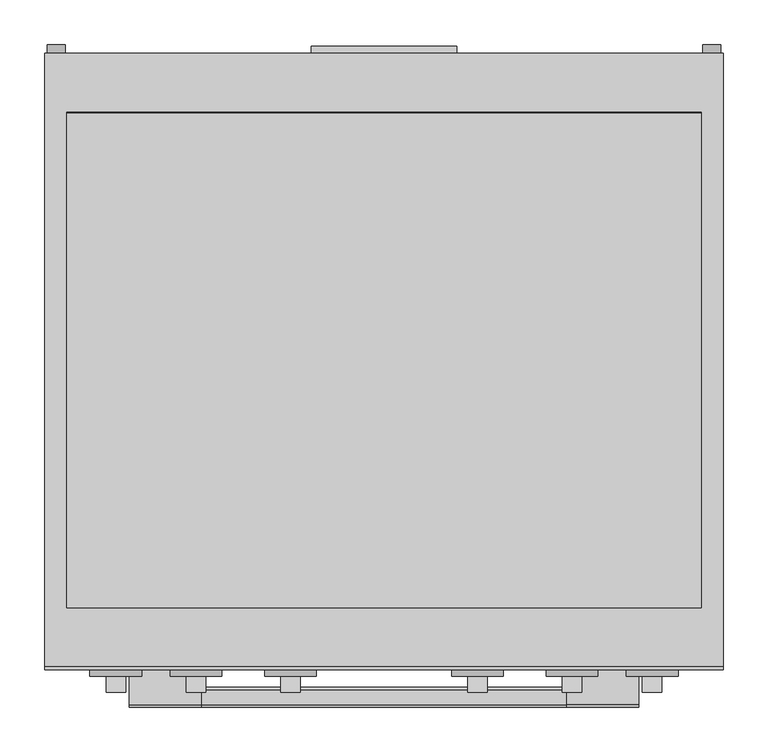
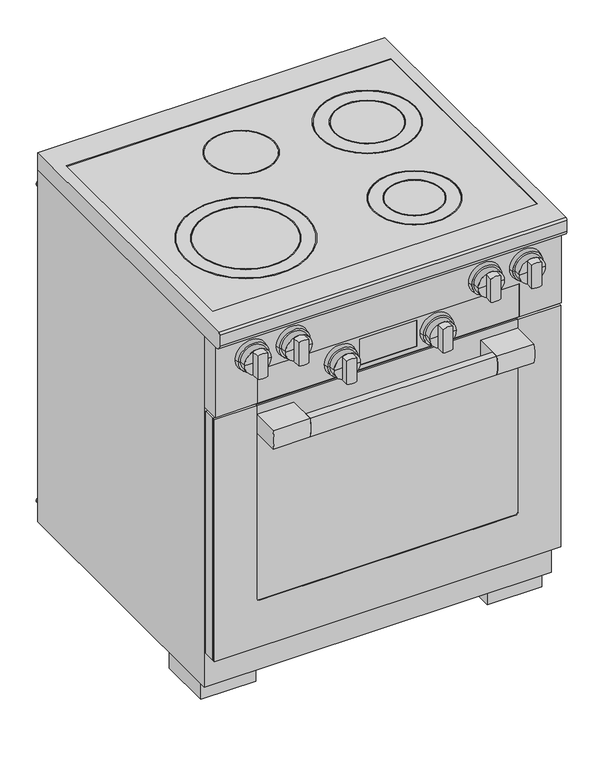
"""IFC4 building model written with IfcOpenShell, lengths in millimetres: proxy geometry, 11793360_USA_HR1421-3_EDST-CLST : 25142181_USA_11793360_HR1421-3_EDST-CLST."""

from ifc_helpers import new_model, si_unit, point, frame, frame_2d, origin, origin_with_axes, place, context, project, spatial, polyline, circle_curve, trimmed, segment, composite_curve, outline, extrude, faceted_brep, source, transform, mapped, element, save
from ifc_brep_helpers import plane_surface, cylinder_surface, revolved_surface, advanced_brep


def specialty_equipment_bfcdb2d1(model_context):
    return source(origin(), model_context, "Body", "SolidModel", [
        extrude(outline(polyline([(-351.0, -617.0), (351.0, -617.0), (351.0, -638.0), (-351.0, -638.0), (-351.0, -617.0)])), frame((0.0, 0.0, 133.0), z_axis=(0.0, 0.0, 1.0), x_axis=(1.0, 0.0, 0.0)), (0.0, 0.0, 1.0), 550.0),
        advanced_brep(
        [(287.0, -664.7, 688.0), (380.0, -664.7, 688.0), (380.0, -664.7, 127.0), (-380.0, -664.7, 127.0), (-380.0, -664.7, 688.0), (-287.0, -664.7, 688.0), (-287.0, -664.7, 687.0), (-379.0, -664.7, 687.0), (-379.0, -664.7, 128.0), (379.0, -664.7, 128.0), (379.0, -664.7, 687.0), (287.0, -664.7, 687.0), (-287.0, -670.0, 688.0), (-380.0, -670.0, 688.0), (-380.0, -670.0, 127.0), (380.0, -670.0, 127.0), (380.0, -670.0, 688.0), (287.0, -670.0, 688.0), (287.0, -670.0, 241.0), (281.0, -670.0, 235.0), (-281.0, -670.0, 235.0), (-287.0, -670.0, 241.0), (-287.0, -668.7, 241.0), (-287.0, -668.7, 687.0), (281.0, -668.7, 235.0), (-281.0, -668.7, 235.0), (287.0, -668.7, 687.0), (287.0, -668.7, 241.0), (379.0, -668.7, 687.0), (379.0, -668.7, 128.0), (-379.0, -668.7, 128.0), (-379.0, -668.7, 687.0)],
        [
            (0, 1),
            (1, 2),
            (2, 3),
            (3, 4),
            (4, 5),
            (5, 6),
            (6, 7),
            (7, 8),
            (8, 9),
            (9, 10),
            (10, 11),
            (11, 0),
            (12, 13),
            (13, 14),
            (14, 15),
            (15, 16),
            (16, 17),
            (17, 18),
            (18, 19, circle_curve(frame((281.0, -670.0, 241.0), z_axis=(0.0, 1.0, 0.0), x_axis=(-1.0, 0.0, 0.0)), 6.0)),
            (19, 20),
            (20, 21, circle_curve(frame((-281.0, -670.0, 241.0), z_axis=(0.0, 1.0, 0.0), x_axis=(-1.0, 0.0, 0.0)), 6.0)),
            (21, 12),
            (21, 22),
            (22, 23),
            (23, 6),
            (5, 12),
            (19, 24),
            (24, 25),
            (25, 20),
            (17, 0),
            (11, 26),
            (26, 27),
            (27, 18),
            (16, 1),
            (15, 2),
            (14, 3),
            (13, 4),
            (25, 22, circle_curve(frame((-281.0, -668.7, 241.0), z_axis=(0.0, 1.0, 0.0), x_axis=(-1.0, 0.0, 0.0)), 6.0)),
            (27, 24, circle_curve(frame((281.0, -668.7, 241.0), z_axis=(0.0, 1.0, 0.0), x_axis=(-1.0, 0.0, 0.0)), 6.0)),
            (28, 29),
            (29, 30),
            (30, 31),
            (31, 23),
            (26, 28),
            (28, 10),
            (9, 29),
            (8, 30),
            (7, 31),
        ],
        [
            plane_surface(frame((-287.0, -664.7, 241.0), z_axis=(0.0, 1.0, 0.0), x_axis=(0.0, 0.0, -1.0))),
            plane_surface(frame((-287.0, -670.0, 241.0), z_axis=(0.0, -1.0, 0.0), x_axis=(0.0, 0.0, 1.0))),
            plane_surface(frame((-287.0, -664.7, 688.0), z_axis=(1.0, 0.0, 0.0), x_axis=(0.0, -1.0, 0.0))),
            plane_surface(frame((-281.0, -664.7, 235.0), z_axis=(0.0, 0.0, 1.0), x_axis=(0.0, -1.0, 0.0))),
            plane_surface(frame((287.0, -664.7, 241.0), z_axis=(-1.0, 0.0, 0.0), x_axis=(0.0, -1.0, 0.0))),
            plane_surface(frame((287.0, -664.7, 688.0), z_axis=(0.0, 0.0, 1.0), x_axis=(0.0, -1.0, 0.0))),
            plane_surface(frame((380.0, -664.7, 688.0), z_axis=(1.0, 0.0, 0.0), x_axis=(0.0, -1.0, 0.0))),
            plane_surface(frame((380.0, -664.7, 127.0), z_axis=(0.0, 0.0, -1.0), x_axis=(0.0, -1.0, 0.0))),
            plane_surface(frame((-380.0, -664.7, 127.0), z_axis=(-1.0, 0.0, 0.0), x_axis=(0.0, -1.0, 0.0))),
            plane_surface(frame((-380.0, -664.7, 688.0), z_axis=(0.0, 0.0, 1.0), x_axis=(0.0, -1.0, 0.0))),
            revolved_surface(polyline([(-287.0, -670.0, 241.0), (-287.0, -668.7, 241.0)]), (-281.0, -670.0, 241.0), (0.0, -1.0, 0.0)),
            revolved_surface(polyline([(275.0, -670.0, 241.0), (275.0, -668.7, 241.0)]), (281.0, -670.0, 241.0), (0.0, -1.0, 0.0)),
            plane_surface(frame((379.0, -668.7, 687.0), z_axis=(0.0, 1.0, 0.0), x_axis=(0.0, 0.0, 1.0))),
            plane_surface(frame((379.0, -664.7, 687.0), z_axis=(-1.0, 0.0, 0.0), x_axis=(0.0, -1.0, 0.0))),
            plane_surface(frame((379.0, -664.7, 128.0), z_axis=(0.0, 0.0, 1.0), x_axis=(0.0, -1.0, 0.0))),
            plane_surface(frame((-379.0, -664.7, 128.0), z_axis=(1.0, 0.0, 0.0), x_axis=(0.0, -1.0, 0.0))),
            plane_surface(frame((-379.0, -664.7, 687.0), z_axis=(0.0, 0.0, -1.0), x_axis=(0.0, -1.0, 0.0))),
        ],
        [
            (0, [[1, 2, 3, 4, 5, 6, 7, 8, 9, 10, 11, 12]]),
            (1, [[13, 14, 15, 16, 17, 18, 19, 20, 21, 22]]),
            (2, [[-22, 23, 24, 25, -6, 26]]),
            (3, [[-20, 27, 28, 29]]),
            (4, [[-18, 30, -12, 31, 32, 33]]),
            (5, [[-1, -30, -17, 34]]),
            (6, [[-2, -34, -16, 35]]),
            (7, [[-3, -35, -15, 36]]),
            (8, [[-4, -36, -14, 37]]),
            (9, [[-5, -37, -13, -26]]),
            (10, [[-21, -29, 38, -23]]),
            (11, [[-19, -33, 39, -27]]),
            (12, [[40, 41, 42, 43, -24, -38, -28, -39, -32, 44]]),
            (13, [[-40, 45, -10, 46]]),
            (14, [[-41, -46, -9, 47]]),
            (15, [[-42, -47, -8, 48]]),
            (16, [[-45, -44, -31, -11]]),
            (16, [[-48, -7, -25, -43]]),
        ],
    ),
        extrude(outline(polyline([(-379.0, -664.7), (379.0, -664.7), (379.0, -668.7), (-379.0, -668.7), (-379.0, -664.7)])), frame((0.0, 0.0, 128.0), z_axis=(0.0, 0.0, 1.0), x_axis=(1.0, 0.0, 0.0)), (0.0, 0.0, 1.0), 559.0),
        extrude(outline(polyline([(-380.0, -638.0), (380.0, -638.0), (380.0, -664.7), (-380.0, -664.7), (-380.0, -638.0)])), frame((0.0, 0.0, 127.0), z_axis=(0.0, 0.0, 1.0), x_axis=(1.0, 0.0, 0.0)), (0.0, 0.0, 1.0), 561.0),
        extrude(outline(composite_curve([segment(polyline([(-668.7, 667.0), (-668.7, 624.0), (-731.0, 624.0)]), True, "CONTINUOUS"), segment(trimmed(circle_curve(frame_2d((-655.4583333, 645.5)), 78.5416667), [point((-731.0, 624.0))], [point((-731.0, 667.0))], False, "CARTESIAN"), True, "CONTINUOUS"), segment(polyline([(-731.0, 667.0), (-668.7, 667.0)]), True, "CONTINUOUS")], self_intersect=False)), frame((-286.0, 0.0, 0.0), z_axis=(1.0, 0.0, 0.0), x_axis=(0.0, 1.0, 0.0)), (0.0, 0.0, 1.0), 81.0),
        extrude(outline(composite_curve([segment(polyline([(-731.0, 667.0), (-668.7, 667.0), (-668.7, 624.0), (-731.0, 624.0)]), True, "CONTINUOUS"), segment(trimmed(circle_curve(frame_2d((-655.4583333, 645.5)), 78.5416667), [point((-731.0, 624.0))], [point((-731.0, 667.0))], False, "CARTESIAN"), True, "CONTINUOUS")], self_intersect=False)), frame((205.0, 0.0, 0.0), z_axis=(1.0, 0.0, 0.0), x_axis=(0.0, 1.0, 0.0)), (0.0, 0.0, 1.0), 81.0),
        extrude(outline(composite_curve([segment(polyline([(-714.0, 624.0), (-731.0, 624.0)]), True, "CONTINUOUS"), segment(trimmed(circle_curve(frame_2d((-655.4583333, 645.5)), 78.5416667), [point((-731.0, 624.0))], [point((-731.0, 667.0))], False, "CARTESIAN"), True, "CONTINUOUS"), segment(polyline([(-731.0, 667.0), (-714.0, 667.0)]), True, "CONTINUOUS"), segment(trimmed(circle_curve(frame_2d((-789.5416667, 645.5)), 78.5416667), [point((-714.0, 667.0))], [point((-714.0, 624.0))], False, "CARTESIAN"), True, "CONTINUOUS")], self_intersect=False)), frame((-205.0, 0.0, 0.0), z_axis=(1.0, 0.0, 0.0), x_axis=(0.0, 1.0, 0.0)), (0.0, 0.0, 1.0), 410.0),
        advanced_brep(
        [(381.0, 0.0, 902.0), (381.0, -688.0, 902.0), (381.0, -692.0, 898.0), (381.0, -692.0, 872.0), (381.0, -682.0, 862.0), (381.0, 0.0, 862.0), (-381.0, 0.0, 902.0), (-381.0, 0.0, 862.0), (-381.0, -682.0, 862.0), (-381.0, -692.0, 872.0), (-381.0, -692.0, 898.0), (-381.0, -688.0, 902.0), (-356.0, -66.0, 902.0), (356.0, -66.0, 902.0), (356.0, -622.0, 902.0), (-356.0, -622.0, 902.0), (356.0, -66.0, 896.4), (-356.0, -66.0, 896.4), (-356.0, -622.0, 896.4), (356.0, -622.0, 896.4)],
        [
            (0, 1),
            (1, 2, circle_curve(frame((381.0, -688.0, 898.0), z_axis=(1.0, 0.0, 0.0), x_axis=(0.0, 0.0, 1.0)), 4.0)),
            (2, 3),
            (3, 4, circle_curve(frame((381.0, -682.0, 872.0), z_axis=(1.0, 0.0, 0.0), x_axis=(0.0, 0.0, 1.0)), 10.0)),
            (4, 5),
            (5, 0),
            (6, 7),
            (7, 8),
            (8, 9, circle_curve(frame((-381.0, -682.0, 872.0), z_axis=(-1.0, 0.0, 0.0), x_axis=(0.0, 0.0, 1.0)), 10.0)),
            (9, 10),
            (10, 11, circle_curve(frame((-381.0, -688.0, 898.0), z_axis=(-1.0, 0.0, 0.0), x_axis=(0.0, 0.0, 1.0)), 4.0)),
            (11, 6),
            (0, 6),
            (11, 1),
            (12, 13),
            (13, 14),
            (14, 15),
            (15, 12),
            (10, 2),
            (9, 3),
            (8, 4),
            (7, 5),
            (16, 17),
            (17, 18),
            (18, 19),
            (19, 16),
            (16, 13),
            (12, 17),
            (15, 18),
            (14, 19),
        ],
        [
            plane_surface(frame((381.0, -688.0, 902.0), z_axis=(1.0, 0.0, 0.0), x_axis=(0.0, -1.0, 0.0))),
            plane_surface(frame((-381.0, -688.0, 902.0), z_axis=(-1.0, 0.0, 0.0), x_axis=(0.0, 1.0, 0.0))),
            plane_surface(frame((381.0, 0.0, 902.0), z_axis=(0.0, 0.0, 1.0), x_axis=(-1.0, 0.0, 0.0))),
            cylinder_surface(frame((-381.0, -688.0, 898.0), z_axis=(1.0, 0.0, 0.0), x_axis=(0.0, 0.0, 1.0)), 4.0),
            plane_surface(frame((381.0, -692.0, 898.0), z_axis=(0.0, -1.0, 0.0), x_axis=(-1.0, 0.0, 0.0))),
            cylinder_surface(frame((-381.0, -682.0, 872.0), z_axis=(1.0, 0.0, 0.0), x_axis=(0.0, 0.0, 1.0)), 10.0),
            plane_surface(frame((381.0, -682.0, 862.0), z_axis=(0.0, 0.0, -1.0), x_axis=(-1.0, 0.0, 0.0))),
            plane_surface(frame((381.0, 0.0, 862.0), z_axis=(0.0, 1.0, 0.0), x_axis=(-1.0, 0.0, 0.0))),
            plane_surface(frame((-356.0, -66.0, 896.4), z_axis=(0.0, 0.0, 1.0), x_axis=(1.0, 0.0, 0.0))),
            plane_surface(frame((356.0, -66.0, 902.0), z_axis=(0.0, -1.0, 0.0), x_axis=(0.0, 0.0, -1.0))),
            plane_surface(frame((-356.0, -66.0, 902.0), z_axis=(1.0, 0.0, 0.0), x_axis=(0.0, 0.0, -1.0))),
            plane_surface(frame((-356.0, -622.0, 902.0), z_axis=(0.0, 1.0, 0.0), x_axis=(0.0, 0.0, -1.0))),
            plane_surface(frame((356.0, -622.0, 902.0), z_axis=(-1.0, 0.0, 0.0), x_axis=(0.0, 0.0, -1.0))),
        ],
        [
            (0, [[1, 2, 3, 4, 5, 6]]),
            (1, [[7, 8, 9, 10, 11, 12]]),
            (2, [[-1, 13, -12, 14], [15, 16, 17, 18]]),
            (3, [[-2, -14, -11, 19]]),
            (4, [[-3, -19, -10, 20]]),
            (5, [[-4, -20, -9, 21]]),
            (6, [[-5, -21, -8, 22]]),
            (7, [[-6, -22, -7, -13]]),
            (8, [[23, 24, 25, 26]]),
            (9, [[-23, 27, -15, 28]]),
            (10, [[-24, -28, -18, 29]]),
            (11, [[-25, -29, -17, 30]]),
            (12, [[-26, -30, -16, -27]]),
        ],
    ),
        extrude(outline(polyline([(356.0, -66.0), (356.0, -622.0), (-356.0, -622.0), (-356.0, -66.0), (356.0, -66.0)])), frame((0.0, 0.0, 896.4), z_axis=(0.0, 0.0, 1.0), x_axis=(1.0, 0.0, 0.0)), (0.0, 0.0, 1.0), 4.0),
        extrude(outline(polyline([(356.0, -67.0), (356.0, -633.0), (-356.0, -633.0), (-356.0, -67.0), (356.0, -67.0)])), frame((0.0, 0.0, 870.0), z_axis=(0.0, 0.0, 1.0), x_axis=(1.0, 0.0, 0.0)), (0.0, 0.0, 1.0), 31.0),
        extrude(outline(composite_curve([segment(trimmed(circle_curve(frame_2d((-45.0, -192.0)), 72.5), [point((27.5, -192.0))], [point((-117.5, -192.0))], False, "CARTESIAN"), True, "CONTINUOUS"), segment(trimmed(circle_curve(frame_2d((-45.0, -192.0)), 72.5), [point((-117.5, -192.0))], [point((27.5, -192.0))], False, "CARTESIAN"), True, "CONTINUOUS")], self_intersect=False), holes=[composite_curve([segment(trimmed(circle_curve(frame_2d((-45.0, -192.0)), 70.5), [point((25.5, -192.0))], [point((-115.5, -192.0))], True, "CARTESIAN"), True, "CONTINUOUS"), segment(trimmed(circle_curve(frame_2d((-45.0, -192.0)), 70.5), [point((-115.5, -192.0))], [point((25.5, -192.0))], True, "CARTESIAN"), True, "CONTINUOUS")], self_intersect=False)]), frame((0.0, 0.0, 900.4), z_axis=(0.0, 0.0, 1.0), x_axis=(1.0, 0.0, 0.0)), (0.0, 0.0, 1.0), 1.0),
        extrude(outline(composite_curve([segment(trimmed(circle_curve(frame_2d((213.0, -225.0)), 105.0), [point((318.0, -225.0))], [point((108.0, -225.0))], False, "CARTESIAN"), True, "CONTINUOUS"), segment(trimmed(circle_curve(frame_2d((213.0, -225.0)), 105.0), [point((108.0, -225.0))], [point((318.0, -225.0))], False, "CARTESIAN"), True, "CONTINUOUS")], self_intersect=False), holes=[composite_curve([segment(trimmed(circle_curve(frame_2d((213.0, -225.0)), 103.0), [point((316.0, -225.0))], [point((110.0, -225.0))], True, "CARTESIAN"), True, "CONTINUOUS"), segment(trimmed(circle_curve(frame_2d((213.0, -225.0)), 103.0), [point((110.0, -225.0))], [point((316.0, -225.0))], True, "CARTESIAN"), True, "CONTINUOUS")], self_intersect=False)]), frame((0.0, 0.0, 900.4), z_axis=(0.0, 0.0, 1.0), x_axis=(1.0, 0.0, 0.0)), (0.0, 0.0, 1.0), 1.0),
        extrude(outline(composite_curve([segment(trimmed(circle_curve(frame_2d((165.0, -487.0)), 90.0), [point((255.0, -487.0))], [point((75.0, -487.0))], False, "CARTESIAN"), True, "CONTINUOUS"), segment(trimmed(circle_curve(frame_2d((165.0, -487.0)), 90.0), [point((75.0, -487.0))], [point((255.0, -487.0))], False, "CARTESIAN"), True, "CONTINUOUS")], self_intersect=False), holes=[composite_curve([segment(trimmed(circle_curve(frame_2d((165.0, -487.0)), 88.0), [point((253.0, -487.0))], [point((77.0, -487.0))], True, "CARTESIAN"), True, "CONTINUOUS"), segment(trimmed(circle_curve(frame_2d((165.0, -487.0)), 88.0), [point((77.0, -487.0))], [point((253.0, -487.0))], True, "CARTESIAN"), True, "CONTINUOUS")], self_intersect=False)]), frame((0.0, 0.0, 900.4), z_axis=(0.0, 0.0, 1.0), x_axis=(1.0, 0.0, 0.0)), (0.0, 0.0, 1.0), 1.0),
        extrude(outline(composite_curve([segment(trimmed(circle_curve(frame_2d((-179.0, -442.0)), 135.0), [point((-44.0, -442.0))], [point((-314.0, -442.0))], False, "CARTESIAN"), True, "CONTINUOUS"), segment(trimmed(circle_curve(frame_2d((-179.0, -442.0)), 135.0), [point((-314.0, -442.0))], [point((-44.0, -442.0))], False, "CARTESIAN"), True, "CONTINUOUS")], self_intersect=False), holes=[composite_curve([segment(trimmed(circle_curve(frame_2d((-179.0, -442.0)), 133.0), [point((-46.0, -442.0))], [point((-312.0, -442.0))], True, "CARTESIAN"), True, "CONTINUOUS"), segment(trimmed(circle_curve(frame_2d((-179.0, -442.0)), 133.0), [point((-312.0, -442.0))], [point((-46.0, -442.0))], True, "CARTESIAN"), True, "CONTINUOUS")], self_intersect=False)]), frame((0.0, 0.0, 900.4), z_axis=(0.0, 0.0, 1.0), x_axis=(1.0, 0.0, 0.0)), (0.0, 0.0, 1.0), 1.0),
        extrude(outline(composite_curve([segment(trimmed(circle_curve(frame_2d((-179.0, -442.0)), 105.0), [point((-74.0, -442.0))], [point((-284.0, -442.0))], False, "CARTESIAN"), True, "CONTINUOUS"), segment(trimmed(circle_curve(frame_2d((-179.0, -442.0)), 105.0), [point((-284.0, -442.0))], [point((-74.0, -442.0))], False, "CARTESIAN"), True, "CONTINUOUS")], self_intersect=False), holes=[composite_curve([segment(trimmed(circle_curve(frame_2d((-179.0, -442.0)), 103.0), [point((-76.0, -442.0))], [point((-282.0, -442.0))], True, "CARTESIAN"), True, "CONTINUOUS"), segment(trimmed(circle_curve(frame_2d((-179.0, -442.0)), 103.0), [point((-282.0, -442.0))], [point((-76.0, -442.0))], True, "CARTESIAN"), True, "CONTINUOUS")], self_intersect=False)]), frame((0.0, 0.0, 900.4), z_axis=(0.0, 0.0, 1.0), x_axis=(1.0, 0.0, 0.0)), (0.0, 0.0, 1.0), 1.0),
        extrude(outline(composite_curve([segment(trimmed(circle_curve(frame_2d((165.0, -487.0)), 60.0), [point((225.0, -487.0))], [point((105.0, -487.0))], False, "CARTESIAN"), True, "CONTINUOUS"), segment(trimmed(circle_curve(frame_2d((165.0, -487.0)), 60.0), [point((105.0, -487.0))], [point((225.0, -487.0))], False, "CARTESIAN"), True, "CONTINUOUS")], self_intersect=False), holes=[composite_curve([segment(trimmed(circle_curve(frame_2d((165.0, -487.0)), 58.0), [point((223.0, -487.0))], [point((107.0, -487.0))], True, "CARTESIAN"), True, "CONTINUOUS"), segment(trimmed(circle_curve(frame_2d((165.0, -487.0)), 58.0), [point((107.0, -487.0))], [point((223.0, -487.0))], True, "CARTESIAN"), True, "CONTINUOUS")], self_intersect=False)]), frame((0.0, 0.0, 900.4), z_axis=(0.0, 0.0, 1.0), x_axis=(1.0, 0.0, 0.0)), (0.0, 0.0, 1.0), 1.0),
        extrude(outline(composite_curve([segment(trimmed(circle_curve(frame_2d((213.0, -225.0)), 72.5), [point((285.5, -225.0))], [point((140.5, -225.0))], False, "CARTESIAN"), True, "CONTINUOUS"), segment(trimmed(circle_curve(frame_2d((213.0, -225.0)), 72.5), [point((140.5, -225.0))], [point((285.5, -225.0))], False, "CARTESIAN"), True, "CONTINUOUS")], self_intersect=False), holes=[composite_curve([segment(trimmed(circle_curve(frame_2d((213.0, -225.0)), 70.5), [point((283.5, -225.0))], [point((142.5, -225.0))], True, "CARTESIAN"), True, "CONTINUOUS"), segment(trimmed(circle_curve(frame_2d((213.0, -225.0)), 70.5), [point((142.5, -225.0))], [point((283.5, -225.0))], True, "CARTESIAN"), True, "CONTINUOUS")], self_intersect=False)]), frame((0.0, 0.0, 900.4), z_axis=(0.0, 0.0, 1.0), x_axis=(1.0, 0.0, 0.0)), (0.0, 0.0, 1.0), 1.0),
        advanced_brep(
        [(301.0, -683.0, 813.0), (330.0, -683.0, 813.0), (272.0, -683.0, 813.0), (272.0, -699.0, 813.0), (330.0, -699.0, 813.0), (301.0, -699.0, 813.0)],
        [
            (0, 1),
            (1, 2, circle_curve(frame((301.0, -683.0, 813.0), z_axis=(0.0, 1.0, 0.0), x_axis=(1.0, 0.0, 0.0)), 29.0)),
            (2, 0),
            (2, 1, circle_curve(frame((301.0, -683.0, 813.0), z_axis=(0.0, 1.0, 0.0), x_axis=(1.0, 0.0, 0.0)), 29.0)),
            (3, 4, circle_curve(frame((301.0, -699.0, 813.0), z_axis=(0.0, -1.0, 0.0), x_axis=(1.0, 0.0, 0.0)), 29.0)),
            (4, 5),
            (5, 3),
            (4, 3, circle_curve(frame((301.0, -699.0, 813.0), z_axis=(0.0, -1.0, 0.0), x_axis=(1.0, 0.0, 0.0)), 29.0)),
            (1, 4),
            (3, 2),
        ],
        [
            plane_surface(frame((301.0, -683.0, 813.0), z_axis=(0.0, 1.0, 0.0), x_axis=(1.0, 0.0, 0.0))),
            plane_surface(frame((301.0, -699.0, 813.0), z_axis=(0.0, -1.0, 0.0), x_axis=(1.0, 0.0, 0.0))),
            cylinder_surface(frame((301.0, 751.3738435, 813.0), z_axis=(0.0, 1.0, 0.0), x_axis=(1.0, 0.0, 0.0)), 29.0),
        ],
        [
            (0, [[1, 2, 3]]),
            (0, [[-3, 4, -1]]),
            (1, [[5, 6, 7]]),
            (1, [[8, -7, -6]]),
            (2, [[-2, 9, -5, 10]]),
            (2, [[-4, -10, -8, -9]]),
        ],
    ),
        extrude(outline(composite_curve([segment(polyline([(786.1671843, 312.0), (839.8328157, 312.0)]), True, "CONTINUOUS"), segment(trimmed(circle_curve(frame_2d((813.0, 301.0)), 29.0), [point((839.8328157, 312.0))], [point((839.8328157, 290.0))], False, "CARTESIAN"), True, "CONTINUOUS"), segment(polyline([(839.8328157, 290.0), (786.1671843, 290.0)]), True, "CONTINUOUS"), segment(trimmed(circle_curve(frame_2d((813.0, 301.0)), 29.0), [point((786.1671843, 290.0))], [point((786.1671843, 312.0))], False, "CARTESIAN"), True, "CONTINUOUS")], self_intersect=False)), frame((0.0, -717.0, 0.0), z_axis=(0.0, 1.0, 0.0), x_axis=(0.0, 0.0, 1.0)), (0.0, 0.0, 1.0), 18.0),
        advanced_brep(
        [(211.0, -683.0, 813.0), (240.0, -683.0, 813.0), (182.0, -683.0, 813.0), (182.0, -699.0, 813.0), (240.0, -699.0, 813.0), (211.0, -699.0, 813.0)],
        [
            (0, 1),
            (1, 2, circle_curve(frame((211.0, -683.0, 813.0), z_axis=(0.0, 1.0, 0.0), x_axis=(1.0, 0.0, 0.0)), 29.0)),
            (2, 0),
            (2, 1, circle_curve(frame((211.0, -683.0, 813.0), z_axis=(0.0, 1.0, 0.0), x_axis=(1.0, 0.0, 0.0)), 29.0)),
            (3, 4, circle_curve(frame((211.0, -699.0, 813.0), z_axis=(0.0, -1.0, 0.0), x_axis=(1.0, 0.0, 0.0)), 29.0)),
            (4, 5),
            (5, 3),
            (4, 3, circle_curve(frame((211.0, -699.0, 813.0), z_axis=(0.0, -1.0, 0.0), x_axis=(1.0, 0.0, 0.0)), 29.0)),
            (1, 4),
            (3, 2),
        ],
        [
            plane_surface(frame((211.0, -683.0, 813.0), z_axis=(0.0, 1.0, 0.0), x_axis=(1.0, 0.0, 0.0))),
            plane_surface(frame((211.0, -699.0, 813.0), z_axis=(0.0, -1.0, 0.0), x_axis=(1.0, 0.0, 0.0))),
            cylinder_surface(frame((211.0, 751.3738435, 813.0), z_axis=(0.0, 1.0, 0.0), x_axis=(1.0, 0.0, 0.0)), 29.0),
        ],
        [
            (0, [[1, 2, 3]]),
            (0, [[-3, 4, -1]]),
            (1, [[5, 6, 7]]),
            (1, [[8, -7, -6]]),
            (2, [[-2, 9, -5, 10]]),
            (2, [[-4, -10, -8, -9]]),
        ],
    ),
        advanced_brep(
        [(-211.0, -683.0, 813.0), (-182.0, -683.0, 813.0), (-240.0, -683.0, 813.0), (-240.0, -699.0, 813.0), (-182.0, -699.0, 813.0), (-211.0, -699.0, 813.0)],
        [
            (0, 1),
            (1, 2, circle_curve(frame((-211.0, -683.0, 813.0), z_axis=(0.0, 1.0, 0.0), x_axis=(1.0, 0.0, 0.0)), 29.0)),
            (2, 0),
            (2, 1, circle_curve(frame((-211.0, -683.0, 813.0), z_axis=(0.0, 1.0, 0.0), x_axis=(1.0, 0.0, 0.0)), 29.0)),
            (3, 4, circle_curve(frame((-211.0, -699.0, 813.0), z_axis=(0.0, -1.0, 0.0), x_axis=(1.0, 0.0, 0.0)), 29.0)),
            (4, 5),
            (5, 3),
            (4, 3, circle_curve(frame((-211.0, -699.0, 813.0), z_axis=(0.0, -1.0, 0.0), x_axis=(1.0, 0.0, 0.0)), 29.0)),
            (1, 4),
            (3, 2),
        ],
        [
            plane_surface(frame((-211.0, -683.0, 813.0), z_axis=(0.0, 1.0, 0.0), x_axis=(1.0, 0.0, 0.0))),
            plane_surface(frame((-211.0, -699.0, 813.0), z_axis=(0.0, -1.0, 0.0), x_axis=(1.0, 0.0, 0.0))),
            cylinder_surface(frame((-211.0, 751.3738435, 813.0), z_axis=(0.0, 1.0, 0.0), x_axis=(1.0, 0.0, 0.0)), 29.0),
        ],
        [
            (0, [[1, 2, 3]]),
            (0, [[-3, 4, -1]]),
            (1, [[5, 6, 7]]),
            (1, [[8, -7, -6]]),
            (2, [[-2, 9, -5, 10]]),
            (2, [[-4, -10, -8, -9]]),
        ],
    ),
        advanced_brep(
        [(-301.0, -683.0, 813.0), (-272.0, -683.0, 813.0), (-330.0, -683.0, 813.0), (-330.0, -699.0, 813.0), (-272.0, -699.0, 813.0), (-301.0, -699.0, 813.0)],
        [
            (0, 1),
            (1, 2, circle_curve(frame((-301.0, -683.0, 813.0), z_axis=(0.0, 1.0, 0.0), x_axis=(1.0, 0.0, 0.0)), 29.0)),
            (2, 0),
            (2, 1, circle_curve(frame((-301.0, -683.0, 813.0), z_axis=(0.0, 1.0, 0.0), x_axis=(1.0, 0.0, 0.0)), 29.0)),
            (3, 4, circle_curve(frame((-301.0, -699.0, 813.0), z_axis=(0.0, -1.0, 0.0), x_axis=(1.0, 0.0, 0.0)), 29.0)),
            (4, 5),
            (5, 3),
            (4, 3, circle_curve(frame((-301.0, -699.0, 813.0), z_axis=(0.0, -1.0, 0.0), x_axis=(1.0, 0.0, 0.0)), 29.0)),
            (1, 4),
            (3, 2),
        ],
        [
            plane_surface(frame((-301.0, -683.0, 813.0), z_axis=(0.0, 1.0, 0.0), x_axis=(1.0, 0.0, 0.0))),
            plane_surface(frame((-301.0, -699.0, 813.0), z_axis=(0.0, -1.0, 0.0), x_axis=(1.0, 0.0, 0.0))),
            cylinder_surface(frame((-301.0, 751.3738435, 813.0), z_axis=(0.0, 1.0, 0.0), x_axis=(1.0, 0.0, 0.0)), 29.0),
        ],
        [
            (0, [[1, 2, 3]]),
            (0, [[-3, 4, -1]]),
            (1, [[5, 6, 7]]),
            (1, [[8, -7, -6]]),
            (2, [[-2, 9, -5, 10]]),
            (2, [[-4, -10, -8, -9]]),
        ],
    ),
        extrude(outline(composite_curve([segment(trimmed(circle_curve(frame_2d((813.0, 211.0)), 29.0), [point((786.1671843, 200.0))], [point((786.1671843, 222.0))], False, "CARTESIAN"), True, "CONTINUOUS"), segment(polyline([(786.1671843, 222.0), (839.8328157, 222.0)]), True, "CONTINUOUS"), segment(trimmed(circle_curve(frame_2d((813.0, 211.0)), 29.0), [point((839.8328157, 222.0))], [point((839.8328157, 200.0))], False, "CARTESIAN"), True, "CONTINUOUS"), segment(polyline([(839.8328157, 200.0), (786.1671843, 200.0)]), True, "CONTINUOUS")], self_intersect=False)), frame((0.0, -717.0, 0.0), z_axis=(0.0, 1.0, 0.0), x_axis=(0.0, 0.0, 1.0)), (0.0, 0.0, 1.0), 18.0),
        extrude(outline(composite_curve([segment(polyline([(839.8328157, -222.0), (786.1671843, -222.0)]), True, "CONTINUOUS"), segment(trimmed(circle_curve(frame_2d((813.0, -211.0)), 29.0), [point((786.1671843, -222.0))], [point((786.1671843, -200.0))], False, "CARTESIAN"), True, "CONTINUOUS"), segment(polyline([(786.1671843, -200.0), (839.8328157, -200.0)]), True, "CONTINUOUS"), segment(trimmed(circle_curve(frame_2d((813.0, -211.0)), 29.0), [point((839.8328157, -200.0))], [point((839.8328157, -222.0))], False, "CARTESIAN"), True, "CONTINUOUS")], self_intersect=False)), frame((0.0, -717.0, 0.0), z_axis=(0.0, 1.0, 0.0), x_axis=(0.0, 0.0, 1.0)), (0.0, 0.0, 1.0), 18.0),
        extrude(outline(composite_curve([segment(polyline([(839.8328157, -312.0), (786.1671843, -312.0)]), True, "CONTINUOUS"), segment(trimmed(circle_curve(frame_2d((813.0, -301.0)), 29.0), [point((786.1671843, -312.0))], [point((786.1671843, -290.0))], False, "CARTESIAN"), True, "CONTINUOUS"), segment(polyline([(786.1671843, -290.0), (839.8328157, -290.0)]), True, "CONTINUOUS"), segment(trimmed(circle_curve(frame_2d((813.0, -301.0)), 29.0), [point((839.8328157, -290.0))], [point((839.8328157, -312.0))], False, "CARTESIAN"), True, "CONTINUOUS")], self_intersect=False)), frame((0.0, -717.0, 0.0), z_axis=(0.0, 1.0, 0.0), x_axis=(0.0, 0.0, 1.0)), (0.0, 0.0, 1.0), 18.0),
        advanced_brep(
        [(105.0, -683.0, 733.0), (134.0, -683.0, 733.0), (76.0, -683.0, 733.0), (76.0, -699.0, 733.0), (134.0, -699.0, 733.0), (105.0, -699.0, 733.0)],
        [
            (0, 1),
            (1, 2, circle_curve(frame((105.0, -683.0, 733.0), z_axis=(0.0, 1.0, 0.0), x_axis=(1.0, 0.0, 0.0)), 29.0)),
            (2, 0),
            (2, 1, circle_curve(frame((105.0, -683.0, 733.0), z_axis=(0.0, 1.0, 0.0), x_axis=(1.0, 0.0, 0.0)), 29.0)),
            (3, 4, circle_curve(frame((105.0, -699.0, 733.0), z_axis=(0.0, -1.0, 0.0), x_axis=(1.0, 0.0, 0.0)), 29.0)),
            (4, 5),
            (5, 3),
            (4, 3, circle_curve(frame((105.0, -699.0, 733.0), z_axis=(0.0, -1.0, 0.0), x_axis=(1.0, 0.0, 0.0)), 29.0)),
            (1, 4),
            (3, 2),
        ],
        [
            plane_surface(frame((105.0, -683.0, 733.0), z_axis=(0.0, 1.0, 0.0), x_axis=(1.0, 0.0, 0.0))),
            plane_surface(frame((105.0, -699.0, 733.0), z_axis=(0.0, -1.0, 0.0), x_axis=(1.0, 0.0, 0.0))),
            cylinder_surface(frame((105.0, 751.3738435, 733.0), z_axis=(0.0, 1.0, 0.0), x_axis=(1.0, 0.0, 0.0)), 29.0),
        ],
        [
            (0, [[1, 2, 3]]),
            (0, [[-3, 4, -1]]),
            (1, [[5, 6, 7]]),
            (1, [[8, -7, -6]]),
            (2, [[-2, 9, -5, 10]]),
            (2, [[-4, -10, -8, -9]]),
        ],
    ),
        advanced_brep(
        [(-105.0, -683.0, 733.0), (-76.0, -683.0, 733.0), (-134.0, -683.0, 733.0), (-134.0, -699.0, 733.0), (-76.0, -699.0, 733.0), (-105.0, -699.0, 733.0)],
        [
            (0, 1),
            (1, 2, circle_curve(frame((-105.0, -683.0, 733.0), z_axis=(0.0, 1.0, 0.0), x_axis=(1.0, 0.0, 0.0)), 29.0)),
            (2, 0),
            (2, 1, circle_curve(frame((-105.0, -683.0, 733.0), z_axis=(0.0, 1.0, 0.0), x_axis=(1.0, 0.0, 0.0)), 29.0)),
            (3, 4, circle_curve(frame((-105.0, -699.0, 733.0), z_axis=(0.0, -1.0, 0.0), x_axis=(1.0, 0.0, 0.0)), 29.0)),
            (4, 5),
            (5, 3),
            (4, 3, circle_curve(frame((-105.0, -699.0, 733.0), z_axis=(0.0, -1.0, 0.0), x_axis=(1.0, 0.0, 0.0)), 29.0)),
            (1, 4),
            (3, 2),
        ],
        [
            plane_surface(frame((-105.0, -683.0, 733.0), z_axis=(0.0, 1.0, 0.0), x_axis=(1.0, 0.0, 0.0))),
            plane_surface(frame((-105.0, -699.0, 733.0), z_axis=(0.0, -1.0, 0.0), x_axis=(1.0, 0.0, 0.0))),
            cylinder_surface(frame((-105.0, 751.3738435, 733.0), z_axis=(0.0, 1.0, 0.0), x_axis=(1.0, 0.0, 0.0)), 29.0),
        ],
        [
            (0, [[1, 2, 3]]),
            (0, [[-3, 4, -1]]),
            (1, [[5, 6, 7]]),
            (1, [[8, -7, -6]]),
            (2, [[-2, 9, -5, 10]]),
            (2, [[-4, -10, -8, -9]]),
        ],
    ),
        extrude(outline(composite_curve([segment(polyline([(759.8328157, -116.0), (706.1671843, -116.0)]), True, "CONTINUOUS"), segment(trimmed(circle_curve(frame_2d((733.0, -105.0)), 29.0), [point((706.1671843, -116.0))], [point((706.1671843, -94.0))], False, "CARTESIAN"), True, "CONTINUOUS"), segment(polyline([(706.1671843, -94.0), (759.8328157, -94.0)]), True, "CONTINUOUS"), segment(trimmed(circle_curve(frame_2d((733.0, -105.0)), 29.0), [point((759.8328157, -94.0))], [point((759.8328157, -116.0))], False, "CARTESIAN"), True, "CONTINUOUS")], self_intersect=False)), frame((0.0, -717.0, 0.0), z_axis=(0.0, 1.0, 0.0), x_axis=(0.0, 0.0, 1.0)), (0.0, 0.0, 1.0), 18.0),
        extrude(outline(composite_curve([segment(polyline([(759.8328157, 94.0), (706.1671843, 94.0)]), True, "CONTINUOUS"), segment(trimmed(circle_curve(frame_2d((733.0, 105.0)), 29.0), [point((706.1671843, 94.0))], [point((706.1671843, 116.0))], False, "CARTESIAN"), True, "CONTINUOUS"), segment(polyline([(706.1671843, 116.0), (759.8328157, 116.0)]), True, "CONTINUOUS"), segment(trimmed(circle_curve(frame_2d((733.0, 105.0)), 29.0), [point((759.8328157, 116.0))], [point((759.8328157, 94.0))], False, "CARTESIAN"), True, "CONTINUOUS")], self_intersect=False)), frame((0.0, -717.0, 0.0), z_axis=(0.0, 1.0, 0.0), x_axis=(0.0, 0.0, 1.0)), (0.0, 0.0, 1.0), 18.0),
        advanced_brep(
        [(267.7632698, -683.0, 813.0), (334.2367302, -683.0, 813.0), (301.0, -683.0, 813.0), (266.0, -673.0, 813.0), (336.0, -673.0, 813.0), (301.0, -673.0, 813.0)],
        [
            (0, 1, circle_curve(frame((301.0, -683.0, 813.0), z_axis=(0.0, -1.0, 0.0), x_axis=(1.0, 0.0, 0.0)), 33.2367302)),
            (1, 2),
            (2, 0),
            (1, 0, circle_curve(frame((301.0, -683.0, 813.0), z_axis=(0.0, -1.0, 0.0), x_axis=(1.0, 0.0, 0.0)), 33.2367302)),
            (3, 4, circle_curve(frame((301.0, -673.0, 813.0), z_axis=(0.0, -1.0, 0.0), x_axis=(1.0, 0.0, 0.0)), 35.0)),
            (4, 1),
            (0, 3),
            (4, 3, circle_curve(frame((301.0, -673.0, 813.0), z_axis=(0.0, -1.0, 0.0), x_axis=(1.0, 0.0, 0.0)), 35.0)),
            (5, 4),
            (3, 5),
        ],
        [
            plane_surface(frame((301.0, -683.0, 813.0), z_axis=(0.0, -1.0, 0.0), x_axis=(1.0, 0.0, 0.0))),
            revolved_surface(polyline([(334.2367302, -683.0, 813.0), (336.0, -673.0, 813.0)]), (301.0, 751.3738435, 813.0), (0.0, 1.0, 0.0)),
            plane_surface(frame((301.0, -673.0, 813.0), z_axis=(0.0, 1.0, 0.0), x_axis=(1.0, 0.0, 0.0))),
        ],
        [
            (0, [[1, 2, 3]]),
            (0, [[4, -3, -2]]),
            (1, [[5, 6, -1, 7]]),
            (1, [[8, -7, -4, -6]]),
            (2, [[9, -5, 10]]),
            (2, [[-10, -8, -9]]),
        ],
    ),
        advanced_brep(
        [(177.7632698, -683.0, 813.0), (244.2367302, -683.0, 813.0), (211.0, -683.0, 813.0), (176.0, -673.0, 813.0), (246.0, -673.0, 813.0), (211.0, -673.0, 813.0)],
        [
            (0, 1, circle_curve(frame((211.0, -683.0, 813.0), z_axis=(0.0, -1.0, 0.0), x_axis=(1.0, 0.0, 0.0)), 33.2367302)),
            (1, 2),
            (2, 0),
            (1, 0, circle_curve(frame((211.0, -683.0, 813.0), z_axis=(0.0, -1.0, 0.0), x_axis=(1.0, 0.0, 0.0)), 33.2367302)),
            (3, 4, circle_curve(frame((211.0, -673.0, 813.0), z_axis=(0.0, -1.0, 0.0), x_axis=(1.0, 0.0, 0.0)), 35.0)),
            (4, 1),
            (0, 3),
            (4, 3, circle_curve(frame((211.0, -673.0, 813.0), z_axis=(0.0, -1.0, 0.0), x_axis=(1.0, 0.0, 0.0)), 35.0)),
            (5, 4),
            (3, 5),
        ],
        [
            plane_surface(frame((211.0, -683.0, 813.0), z_axis=(0.0, -1.0, 0.0), x_axis=(1.0, 0.0, 0.0))),
            revolved_surface(polyline([(244.2367302, -683.0, 813.0), (246.0, -673.0, 813.0)]), (211.0, 751.3738435, 813.0), (0.0, 1.0, 0.0)),
            plane_surface(frame((211.0, -673.0, 813.0), z_axis=(0.0, 1.0, 0.0), x_axis=(1.0, 0.0, 0.0))),
        ],
        [
            (0, [[1, 2, 3]]),
            (0, [[4, -3, -2]]),
            (1, [[5, 6, -1, 7]]),
            (1, [[8, -7, -4, -6]]),
            (2, [[9, -5, 10]]),
            (2, [[-10, -8, -9]]),
        ],
    ),
        advanced_brep(
        [(-244.2367302, -683.0, 813.0), (-177.7632698, -683.0, 813.0), (-211.0, -683.0, 813.0), (-246.0, -673.0, 813.0), (-176.0, -673.0, 813.0), (-211.0, -673.0, 813.0)],
        [
            (0, 1, circle_curve(frame((-211.0, -683.0, 813.0), z_axis=(0.0, -1.0, 0.0), x_axis=(1.0, 0.0, 0.0)), 33.2367302)),
            (1, 2),
            (2, 0),
            (1, 0, circle_curve(frame((-211.0, -683.0, 813.0), z_axis=(0.0, -1.0, 0.0), x_axis=(1.0, 0.0, 0.0)), 33.2367302)),
            (3, 4, circle_curve(frame((-211.0, -673.0, 813.0), z_axis=(0.0, -1.0, 0.0), x_axis=(1.0, 0.0, 0.0)), 35.0)),
            (4, 1),
            (0, 3),
            (4, 3, circle_curve(frame((-211.0, -673.0, 813.0), z_axis=(0.0, -1.0, 0.0), x_axis=(1.0, 0.0, 0.0)), 35.0)),
            (5, 4),
            (3, 5),
        ],
        [
            plane_surface(frame((-211.0, -683.0, 813.0), z_axis=(0.0, -1.0, 0.0), x_axis=(1.0, 0.0, 0.0))),
            revolved_surface(polyline([(-177.7632698, -683.0, 813.0), (-176.0, -673.0, 813.0)]), (-211.0, 751.3738435, 813.0), (0.0, 1.0, 0.0)),
            plane_surface(frame((-211.0, -673.0, 813.0), z_axis=(0.0, 1.0, 0.0), x_axis=(1.0, 0.0, 0.0))),
        ],
        [
            (0, [[1, 2, 3]]),
            (0, [[4, -3, -2]]),
            (1, [[5, 6, -1, 7]]),
            (1, [[8, -7, -4, -6]]),
            (2, [[9, -5, 10]]),
            (2, [[-10, -8, -9]]),
        ],
    ),
        advanced_brep(
        [(-334.2367302, -683.0, 813.0), (-267.7632698, -683.0, 813.0), (-301.0, -683.0, 813.0), (-336.0, -673.0, 813.0), (-266.0, -673.0, 813.0), (-301.0, -673.0, 813.0)],
        [
            (0, 1, circle_curve(frame((-301.0, -683.0, 813.0), z_axis=(0.0, -1.0, 0.0), x_axis=(1.0, 0.0, 0.0)), 33.2367302)),
            (1, 2),
            (2, 0),
            (1, 0, circle_curve(frame((-301.0, -683.0, 813.0), z_axis=(0.0, -1.0, 0.0), x_axis=(1.0, 0.0, 0.0)), 33.2367302)),
            (3, 4, circle_curve(frame((-301.0, -673.0, 813.0), z_axis=(0.0, -1.0, 0.0), x_axis=(1.0, 0.0, 0.0)), 35.0)),
            (4, 1),
            (0, 3),
            (4, 3, circle_curve(frame((-301.0, -673.0, 813.0), z_axis=(0.0, -1.0, 0.0), x_axis=(1.0, 0.0, 0.0)), 35.0)),
            (5, 4),
            (3, 5),
        ],
        [
            plane_surface(frame((-301.0, -683.0, 813.0), z_axis=(0.0, -1.0, 0.0), x_axis=(1.0, 0.0, 0.0))),
            revolved_surface(polyline([(-267.7632698, -683.0, 813.0), (-266.0, -673.0, 813.0)]), (-301.0, 751.3738435, 813.0), (0.0, 1.0, 0.0)),
            plane_surface(frame((-301.0, -673.0, 813.0), z_axis=(0.0, 1.0, 0.0), x_axis=(1.0, 0.0, 0.0))),
        ],
        [
            (0, [[1, 2, 3]]),
            (0, [[4, -3, -2]]),
            (1, [[5, 6, -1, 7]]),
            (1, [[8, -7, -4, -6]]),
            (2, [[9, -5, 10]]),
            (2, [[-10, -8, -9]]),
        ],
    ),
        advanced_brep(
        [(71.7632698, -683.0, 733.0), (138.2367302, -683.0, 733.0), (105.0, -683.0, 733.0), (70.0, -673.0, 733.0), (140.0, -673.0, 733.0), (105.0, -673.0, 733.0)],
        [
            (0, 1, circle_curve(frame((105.0, -683.0, 733.0), z_axis=(0.0, -1.0, 0.0), x_axis=(1.0, 0.0, 0.0)), 33.2367302)),
            (1, 2),
            (2, 0),
            (1, 0, circle_curve(frame((105.0, -683.0, 733.0), z_axis=(0.0, -1.0, 0.0), x_axis=(1.0, 0.0, 0.0)), 33.2367302)),
            (3, 4, circle_curve(frame((105.0, -673.0, 733.0), z_axis=(0.0, -1.0, 0.0), x_axis=(1.0, 0.0, 0.0)), 35.0)),
            (4, 1),
            (0, 3),
            (4, 3, circle_curve(frame((105.0, -673.0, 733.0), z_axis=(0.0, -1.0, 0.0), x_axis=(1.0, 0.0, 0.0)), 35.0)),
            (5, 4),
            (3, 5),
        ],
        [
            plane_surface(frame((105.0, -683.0, 733.0), z_axis=(0.0, -1.0, 0.0), x_axis=(1.0, 0.0, 0.0))),
            revolved_surface(polyline([(138.2367302, -683.0, 733.0), (140.0, -673.0, 733.0)]), (105.0, 751.3738435, 733.0), (0.0, 1.0, 0.0)),
            plane_surface(frame((105.0, -673.0, 733.0), z_axis=(0.0, 1.0, 0.0), x_axis=(1.0, 0.0, 0.0))),
        ],
        [
            (0, [[1, 2, 3]]),
            (0, [[4, -3, -2]]),
            (1, [[5, 6, -1, 7]]),
            (1, [[8, -7, -4, -6]]),
            (2, [[9, -5, 10]]),
            (2, [[-10, -8, -9]]),
        ],
    ),
        advanced_brep(
        [(-138.2367302, -683.0, 733.0), (-71.7632698, -683.0, 733.0), (-105.0, -683.0, 733.0), (-140.0, -673.0, 733.0), (-70.0, -673.0, 733.0), (-105.0, -673.0, 733.0)],
        [
            (0, 1, circle_curve(frame((-105.0, -683.0, 733.0), z_axis=(0.0, -1.0, 0.0), x_axis=(1.0, 0.0, 0.0)), 33.2367302)),
            (1, 2),
            (2, 0),
            (1, 0, circle_curve(frame((-105.0, -683.0, 733.0), z_axis=(0.0, -1.0, 0.0), x_axis=(1.0, 0.0, 0.0)), 33.2367302)),
            (3, 4, circle_curve(frame((-105.0, -673.0, 733.0), z_axis=(0.0, -1.0, 0.0), x_axis=(1.0, 0.0, 0.0)), 35.0)),
            (4, 1),
            (0, 3),
            (4, 3, circle_curve(frame((-105.0, -673.0, 733.0), z_axis=(0.0, -1.0, 0.0), x_axis=(1.0, 0.0, 0.0)), 35.0)),
            (5, 4),
            (3, 5),
        ],
        [
            plane_surface(frame((-105.0, -683.0, 733.0), z_axis=(0.0, -1.0, 0.0), x_axis=(1.0, 0.0, 0.0))),
            revolved_surface(polyline([(-71.7632698, -683.0, 733.0), (-70.0, -673.0, 733.0)]), (-105.0, 751.3738435, 733.0), (0.0, 1.0, 0.0)),
            plane_surface(frame((-105.0, -673.0, 733.0), z_axis=(0.0, 1.0, 0.0), x_axis=(1.0, 0.0, 0.0))),
        ],
        [
            (0, [[1, 2, 3]]),
            (0, [[4, -3, -2]]),
            (1, [[5, 6, -1, 7]]),
            (1, [[8, -7, -4, -6]]),
            (2, [[9, -5, 10]]),
            (2, [[-10, -8, -9]]),
        ],
    ),
        faceted_brep([(380.0, -673.0, 862.0), (-380.0, -673.0, 862.0), (-380.0, -673.0, 695.0), (-287.0, -673.0, 695.0), (-287.0, -673.0, 772.0), (287.0, -673.0, 772.0), (287.0, -673.0, 695.0), (380.0, -673.0, 695.0), (380.0, -633.0, 862.0), (380.0, -633.0, 695.0), (-380.0, -633.0, 695.0), (-380.0, -633.0, 862.0), (287.0, -666.7, 695.0), (-287.0, -666.7, 695.0), (287.0, -666.7, 772.0), (-287.0, -666.7, 772.0)], [[[0, 1, 2, 3, 4, 5, 6, 7]], [[8, 9, 10, 11]], [[0, 7, 9, 8]], [[10, 9, 7, 6, 12, 13, 3, 2]], [[2, 1, 11, 10]], [[1, 0, 8, 11]], [[14, 15, 13, 12]], [[14, 12, 6, 5]], [[13, 15, 4, 3]], [[15, 14, 5, 4]]]),
        extrude(outline(polyline([(772.0, 287.0), (772.0, -287.0), (695.0, -287.0), (695.0, 287.0), (772.0, 287.0)]), holes=[polyline([(765.0, 62.5), (705.0, 62.5), (705.0, -62.5), (765.0, -62.5), (765.0, 62.5)])]), frame((0.0, -672.5, 0.0), z_axis=(0.0, 1.0, 0.0), x_axis=(0.0, 0.0, 1.0)), (0.0, 0.0, 1.0), 5.8),
        extrude(outline(polyline([(-62.5, -671.0), (62.5, -671.0), (62.5, -672.0), (-62.5, -672.0), (-62.5, -671.0)])), frame((0.0, 0.0, 705.0), z_axis=(0.0, 0.0, 1.0), x_axis=(1.0, 0.0, 0.0)), (0.0, 0.0, 1.0), 60.0),
        extrude(outline(polyline([(-254.0, -489.0), (-254.0, -609.0), (-374.0, -609.0), (-374.0, -489.0), (-254.0, -489.0)])), origin_with_axes(), (0.0, 0.0, 1.0), 45.0),
        extrude(outline(polyline([(374.0, -489.0), (374.0, -609.0), (254.0, -609.0), (254.0, -489.0), (374.0, -489.0)])), origin_with_axes(), (0.0, 0.0, 1.0), 45.0),
        extrude(outline(composite_curve([segment(trimmed(circle_curve(frame_2d((-152.0, 39.6862697)), 39.6862697), [point((-112.6710759, 45.0))], [point((-191.3289241, 45.0))], False, "CARTESIAN"), True, "CONTINUOUS"), segment(polyline([(-191.3289241, 45.0), (-112.6710759, 45.0)]), True, "CONTINUOUS")], self_intersect=False)), frame((-234.0, 0.0, 0.0), z_axis=(1.0, 0.0, 0.0), x_axis=(0.0, 1.0, 0.0)), (0.0, 0.0, 1.0), 28.0),
        extrude(outline(composite_curve([segment(trimmed(circle_curve(frame_2d((225.0, -35.0)), 7.5), [point((225.0, -42.5))], [point((225.0, -27.5))], False, "CARTESIAN"), True, "CONTINUOUS"), segment(trimmed(circle_curve(frame_2d((225.0, -35.0)), 7.5), [point((225.0, -27.5))], [point((225.0, -42.5))], False, "CARTESIAN"), True, "CONTINUOUS")], self_intersect=False)), frame((0.0, 0.0, 102.0), z_axis=(0.0, 0.0, 1.0), x_axis=(1.0, 0.0, 0.0)), (0.0, 0.0, 1.0), 30.0),
        extrude(outline(polyline([(232.4261097, -39.2846028), (225.1553153, -39.2846028), (225.1553153, -38.0259878), (231.1324687, -38.0259878), (231.1324687, -35.0398896), (225.4699511, -35.0398896), (225.4699511, -33.7868997), (231.1324687, -33.7868997), (231.1324687, -30.484481), (225.0234692, -30.484481), (225.0234692, -29.223126), (232.4261097, -29.223126), (232.4261097, -39.2846028)])), frame((0.0, 0.0, 101.0), z_axis=(0.0, 0.0, 1.0), x_axis=(1.0, 0.0, 0.0)), (0.0, 0.0, 1.0), 1.0),
        extrude(outline(polyline([(223.0939455, -39.2781045), (216.9083542, -39.2781045), (216.9083542, -38.0259878), (221.9083542, -38.0259878), (221.9083542, -29.223126), (223.0939455, -29.223126), (223.0939455, -39.2781045)])), frame((0.0, 0.0, 101.0), z_axis=(0.0, 0.0, 1.0), x_axis=(1.0, 0.0, 0.0)), (0.0, 0.0, 1.0), 1.0),
        faceted_brep([(356.0, -608.0, 695.0), (-356.0, -608.0, 695.0), (-356.0, -608.0, 128.0), (356.0, -608.0, 128.0), (312.0, -608.0, 608.0), (312.0, -608.0, 185.0), (-312.0, -608.0, 185.0), (-312.0, -608.0, 608.0), (356.0, -633.0, 128.0), (356.0, -633.0, 695.0), (-356.0, -633.0, 128.0), (-356.0, -633.0, 695.0), (-381.0, 0.0, 862.0), (-381.0, -633.0, 862.0), (381.0, -633.0, 862.0), (381.0, 0.0, 862.0), (356.0, 0.0, 862.0), (356.0, -23.0, 862.0), (266.0, -23.0, 862.0), (266.0, 0.0, 862.0), (65.0, 0.0, 862.0), (65.0, -23.0, 862.0), (-66.0, -23.0, 862.0), (-66.0, 0.0, 862.0), (381.0, 0.0, 45.0), (381.0, -633.0, 45.0), (-381.0, -633.0, 45.0), (-381.0, 0.0, 45.0), (-356.0, 0.0, 45.0), (-356.0, -75.0, 45.0), (356.0, -75.0, 45.0), (356.0, 0.0, 45.0), (266.0, 0.0, 132.0), (65.0, 0.0, 132.0), (-66.0, 0.0, 132.0), (-270.0, 0.0, 132.0), (-270.0, 0.0, 784.0), (-335.0, 0.0, 784.0), (-335.0, 0.0, 132.0), (-356.0, 0.0, 132.0), (312.0, -173.0, 608.0), (-312.0, -173.0, 608.0), (-312.0, -173.0, 185.0), (312.0, -173.0, 185.0), (-356.0, -75.0, 132.0), (356.0, -75.0, 132.0), (-335.0, -73.0, 132.0), (-270.0, -73.0, 132.0), (-66.0, -23.0, 132.0), (65.0, -23.0, 132.0), (266.0, -23.0, 132.0), (356.0, -23.0, 132.0), (-335.0, -73.0, 784.0), (-270.0, -73.0, 784.0)], [[[0, 1, 2, 3], [4, 5, 6, 7]], [[0, 3, 8, 9]], [[3, 2, 10, 8]], [[2, 1, 11, 10]], [[1, 0, 9, 11]], [[12, 13, 14, 15, 16, 17, 18, 19, 20, 21, 22, 23]], [[24, 25, 26, 27, 28, 29, 30, 31]], [[20, 19, 32, 33]], [[15, 24, 31, 16]], [[27, 12, 23, 34, 35, 36, 37, 38, 39, 28]], [[13, 12, 27, 26]], [[14, 13, 26, 25], [9, 8, 10, 11]], [[15, 14, 25, 24]], [[40, 41, 42, 43]], [[40, 43, 5, 4]], [[43, 42, 6, 5]], [[42, 41, 7, 6]], [[41, 40, 4, 7]], [[44, 45, 30, 29]], [[45, 44, 39, 38, 46, 47, 35, 34, 48, 49, 33, 32, 50, 51]], [[30, 45, 51, 17, 16, 31]], [[39, 44, 29, 28]], [[52, 53, 47, 46]], [[53, 52, 37, 36]], [[53, 36, 35, 47]], [[37, 52, 46, 38]], [[17, 51, 50, 18]], [[21, 49, 48, 22]], [[49, 21, 20, 33]], [[22, 48, 34, 23]], [[18, 50, 32, 19]]]),
        extrude(outline(composite_curve([segment(trimmed(circle_curve(frame_2d((-152.0, 39.6862697)), 39.6862697), [point((-112.6710759, 45.0))], [point((-191.3289241, 45.0))], False, "CARTESIAN"), True, "CONTINUOUS"), segment(polyline([(-191.3289241, 45.0), (-112.6710759, 45.0)]), True, "CONTINUOUS")], self_intersect=False)), frame((206.0, 0.0, 0.0), z_axis=(1.0, 0.0, 0.0), x_axis=(0.0, 1.0, 0.0)), (0.0, 0.0, 1.0), 28.0),
        extrude(outline(polyline([(-81.5, 8.0), (81.5, 8.0), (81.5, 0.0), (-81.5, 0.0), (-81.5, 8.0)])), frame((0.0, 0.0, 559.0), z_axis=(0.0, 0.0, 1.0), x_axis=(1.0, 0.0, 0.0)), (0.0, 0.0, 1.0), 237.0),
        extrude(outline(composite_curve([segment(trimmed(circle_curve(frame_2d((822.0, 368.0)), 10.0), [point((822.0, 378.0))], [point((822.0, 358.0))], False, "CARTESIAN"), True, "CONTINUOUS"), segment(trimmed(circle_curve(frame_2d((822.0, 368.0)), 10.0), [point((822.0, 358.0))], [point((822.0, 378.0))], False, "CARTESIAN"), True, "CONTINUOUS")], self_intersect=False)), frame((0.0, 0.0, 0.0), z_axis=(0.0, 1.0, 0.0), x_axis=(0.0, 0.0, 1.0)), (0.0, 0.0, 1.0), 10.0),
        extrude(outline(composite_curve([segment(trimmed(circle_curve(frame_2d((87.0, 368.0)), 10.0), [point((87.0, 378.0))], [point((87.0, 358.0))], False, "CARTESIAN"), True, "CONTINUOUS"), segment(trimmed(circle_curve(frame_2d((87.0, 368.0)), 10.0), [point((87.0, 358.0))], [point((87.0, 378.0))], False, "CARTESIAN"), True, "CONTINUOUS")], self_intersect=False)), frame((0.0, 0.0, 0.0), z_axis=(0.0, 1.0, 0.0), x_axis=(0.0, 0.0, 1.0)), (0.0, 0.0, 1.0), 10.0),
        extrude(outline(composite_curve([segment(trimmed(circle_curve(frame_2d((822.0, -368.0)), 10.0), [point((822.0, -358.0))], [point((822.0, -378.0))], False, "CARTESIAN"), True, "CONTINUOUS"), segment(trimmed(circle_curve(frame_2d((822.0, -368.0)), 10.0), [point((822.0, -378.0))], [point((822.0, -358.0))], False, "CARTESIAN"), True, "CONTINUOUS")], self_intersect=False)), frame((0.0, 0.0, 0.0), z_axis=(0.0, 1.0, 0.0), x_axis=(0.0, 0.0, 1.0)), (0.0, 0.0, 1.0), 10.0),
        extrude(outline(composite_curve([segment(trimmed(circle_curve(frame_2d((87.0, -368.0)), 10.0), [point((87.0, -358.0))], [point((87.0, -378.0))], False, "CARTESIAN"), True, "CONTINUOUS"), segment(trimmed(circle_curve(frame_2d((87.0, -368.0)), 10.0), [point((87.0, -378.0))], [point((87.0, -358.0))], False, "CARTESIAN"), True, "CONTINUOUS")], self_intersect=False)), frame((0.0, 0.0, 0.0), z_axis=(0.0, 1.0, 0.0), x_axis=(0.0, 0.0, 1.0)), (0.0, 0.0, 1.0), 10.0),
    ])


if __name__ == "__main__":
    model = new_model("IFC4")
    model_context = context("Model", 3, world=origin())
    ifc_project = project(units=[si_unit("LENGTHUNIT", "METRE", prefix="MILLI")], contexts=[model_context])
    site = spatial("IfcSite", under=ifc_project)
    building = spatial("IfcBuilding", under=site)
    placement = place(None, origin())
    specialty_equipment_shape = specialty_equipment_bfcdb2d1(model_context)
    element("IfcBuildingElementProxy", 1, Name="11793360_USA_HR1421-3_EDST-CLST : 25142181_USA_11793360_HR1421-3_EDST-CLST", ObjectType="11793360_USA_HR1421-3_EDST-CLST : 25142181_USA_11793360_HR1421-3_EDST-CLST", at=placement, inside=building, context=model_context, shape_type="MappedRepresentation", body=[
        mapped(specialty_equipment_shape, transform((0.0, 0.0, 0.0), x_axis=(1.0, 0.0, 0.0), y_axis=(0.0, 1.0, 0.0), z_axis=(0.0, 0.0, 1.0))),
    ])
    save(model, "model.ifc")
